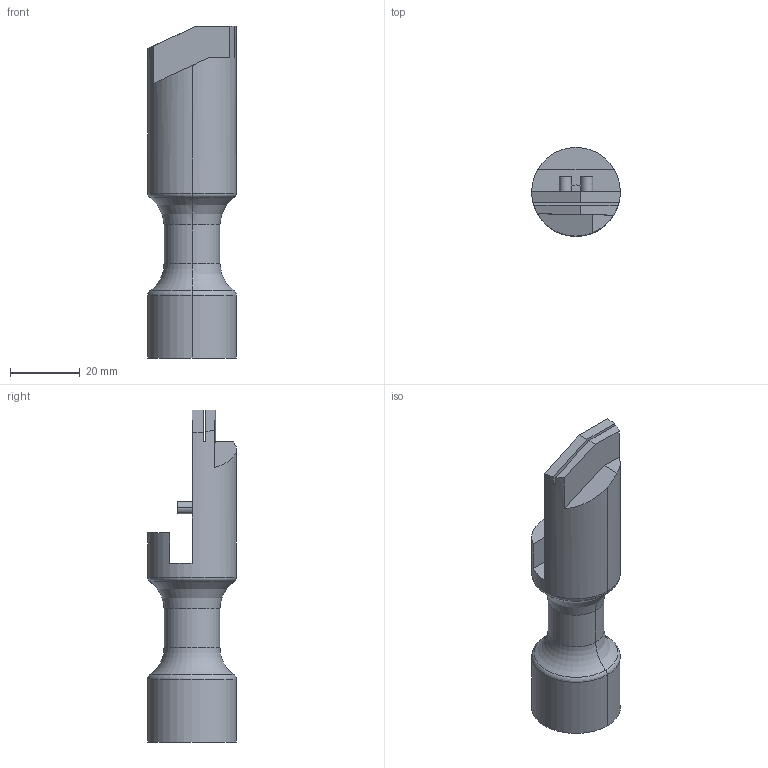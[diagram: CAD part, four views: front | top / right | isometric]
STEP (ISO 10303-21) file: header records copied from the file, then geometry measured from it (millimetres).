
FILE_DESCRIPTION((''),'2;1');
FILE_NAME('C-52594-1','2012-09-25T',('workeradm'),('Tyco Electronics Ltd.'),'PRO/ENGINEER BY PARAMETRIC TECHNOLOGY CORPORATION, 2010430','PRO/ENGINEER BY PARAMETRIC TECHNOLOGY CORPORATION, 2010430','');
FILE_SCHEMA(('AUTOMOTIVE_DESIGN { 1 0 10303 214 1 1 1 1 }'));
Length unit declared in the file: millimetre
Products named in the file (1): C-52594-1
Bounding box: 25.4 x 25.4 x 95 mm (x, y, z)
Volume: 28128.1 mm3; surface area: 8785 mm2
Topology: 1 solids, 1 shells, 46 faces, 105 edges, 66 vertices
Faces by surface type: plane 21, cylinder 17, torus 8
Entity records: 1574 total; most frequent: DIRECTION 246, CARTESIAN_POINT 230, ORIENTED_EDGE 210, EDGE_CURVE 105, AXIS2_PLACEMENT_3D 99, VERTEX_POINT 66, COLOUR_RGB 64, CIRCLE 53
